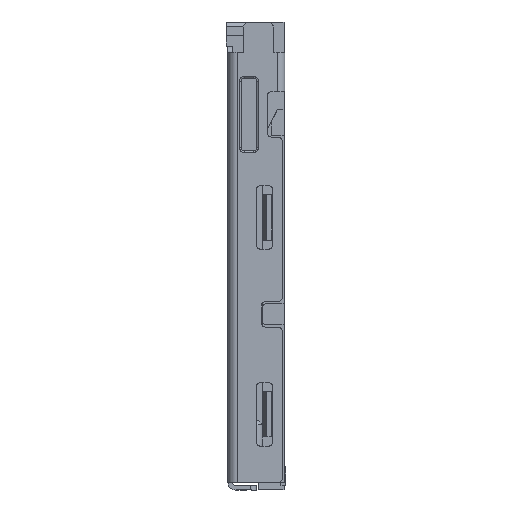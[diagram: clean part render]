
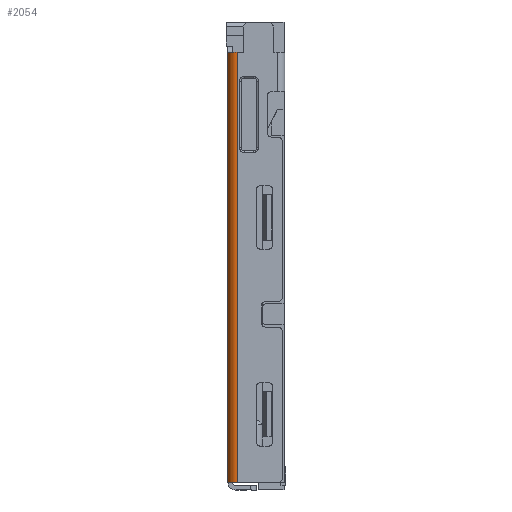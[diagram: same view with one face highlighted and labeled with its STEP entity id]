
A CAD part, left-side view. The second image highlights one B-rep face of the part: STEP entity #2054.
In plain terms, the highlighted cylindrical face has radius 0.3 mm (diameter 0.6 mm), a partial arc.
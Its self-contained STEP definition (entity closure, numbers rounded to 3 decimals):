
#2054=ADVANCED_FACE('',(#4816),#4817,.T.);
#4816=FACE_OUTER_BOUND('',#8979,.T.);
#4817=CYLINDRICAL_SURFACE('',#8980,0.3);
#8979=EDGE_LOOP('',(#16370,#16371,#16372,#16373));
#8980=AXIS2_PLACEMENT_3D('',#16374,#16375,#16376);
#16370=ORIENTED_EDGE('',*,*,#24254,.F.);
#16371=ORIENTED_EDGE('',*,*,#25490,.T.);
#16372=ORIENTED_EDGE('',*,*,#25491,.T.);
#16373=ORIENTED_EDGE('',*,*,#25492,.T.);
#16374=CARTESIAN_POINT('',(0.3,15.484,3.8));
#16375=DIRECTION('',(0.0,-1.0,-0.0));
#16376=DIRECTION('',(0.0,0.0,-1.0));
#24254=EDGE_CURVE('',#29267,#29269,#29270,.T.);
#25490=EDGE_CURVE('',#29267,#31234,#31235,.T.);
#25491=EDGE_CURVE('',#31234,#31236,#31237,.T.);
#25492=EDGE_CURVE('',#31236,#29269,#31238,.T.);
#29267=VERTEX_POINT('',#36200);
#29269=VERTEX_POINT('',#36203);
#29270=CIRCLE('',#36204,0.3);
#31234=VERTEX_POINT('',#39110);
#31235=LINE('',#39111,#39112);
#31236=VERTEX_POINT('',#39113);
#31237=CIRCLE('',#39114,0.3);
#31238=LINE('',#39115,#39116);
#36200=CARTESIAN_POINT('',(0.3,15.2,3.5));
#36203=CARTESIAN_POINT('',(0.,15.2,3.8));
#36204=AXIS2_PLACEMENT_3D('',#44245,#44246,#44247);
#39110=CARTESIAN_POINT('',(0.3,1.,3.5));
#39111=CARTESIAN_POINT('',(0.3,15.484,3.5));
#39112=VECTOR('',#45660,1000.0);
#39113=CARTESIAN_POINT('',(0.0,1.0,3.8));
#39114=AXIS2_PLACEMENT_3D('',#45661,#45662,#45663);
#39115=CARTESIAN_POINT('',(0.0,7.6,3.8));
#39116=VECTOR('',#45664,1000.0);
#44245=CARTESIAN_POINT('',(0.3,15.2,3.8));
#44246=DIRECTION('',(0.0,1.0,0.0));
#44247=DIRECTION('',(0.0,0.0,1.0));
#45660=DIRECTION('',(0.0,-1.0,0.0));
#45661=CARTESIAN_POINT('',(0.3,1.,3.8));
#45662=DIRECTION('',(0.0,1.0,0.0));
#45663=DIRECTION('',(0.0,0.0,-1.0));
#45664=DIRECTION('',(0.0,1.0,0.0));
